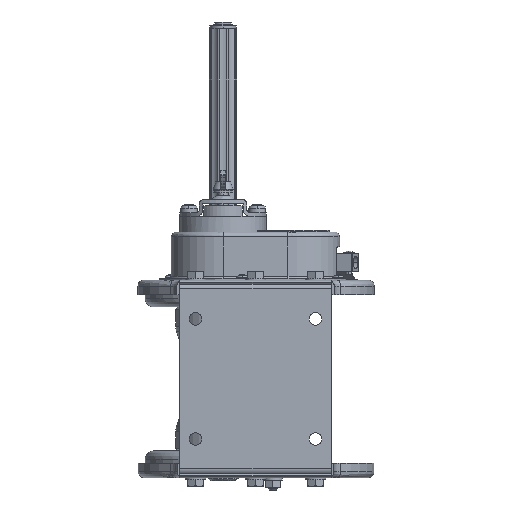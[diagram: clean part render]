
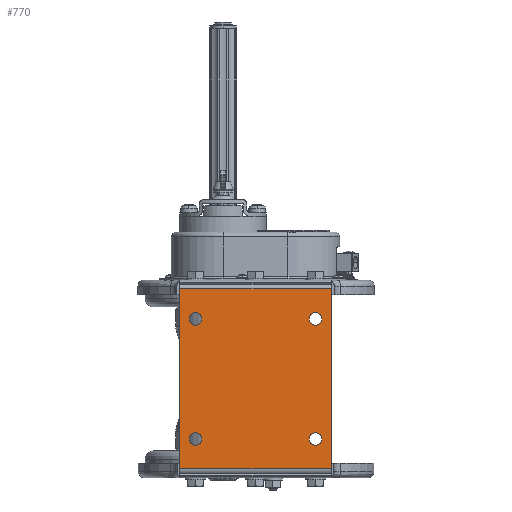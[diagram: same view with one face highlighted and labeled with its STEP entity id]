
A CAD part, front view. The second image highlights one B-rep face of the part: STEP entity #770.
In plain terms, the highlighted planar face has unit normal (0, -1, 0).
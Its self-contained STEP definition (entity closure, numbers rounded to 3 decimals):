
#770=ADVANCED_FACE('',(#8767,#8768,#8769,#8770,#8771),#8766,.F.);
#8766=PLANE('',#26576);
#8767=FACE_OUTER_BOUND('',#26577,.T.);
#8768=FACE_BOUND('',#26578,.T.);
#8769=FACE_BOUND('',#26579,.T.);
#8770=FACE_BOUND('',#26580,.T.);
#8771=FACE_BOUND('',#26581,.T.);
#26573=CARTESIAN_POINT('',(284.159,428.345,335.9));
#26574=DIRECTION('',(0.,1.,0.));
#26575=DIRECTION('',(0.,0.,1.));
#26576=AXIS2_PLACEMENT_3D('',#26573,#26574,#26575);
#26577=EDGE_LOOP('',(#39079,#39080,#39081,#39082));
#26578=EDGE_LOOP('',(#39083,#39084));
#26579=EDGE_LOOP('',(#39085,#39086));
#26580=EDGE_LOOP('',(#39087,#39088));
#26581=EDGE_LOOP('',(#39089,#39090));
#39079=ORIENTED_EDGE('',*,*,#48037,.F.);
#39080=ORIENTED_EDGE('',*,*,#48088,.F.);
#39081=ORIENTED_EDGE('',*,*,#46677,.T.);
#39082=ORIENTED_EDGE('',*,*,#47997,.T.);
#39083=ORIENTED_EDGE('',*,*,#48089,.T.);
#39084=ORIENTED_EDGE('',*,*,#48090,.T.);
#39085=ORIENTED_EDGE('',*,*,#48091,.T.);
#39086=ORIENTED_EDGE('',*,*,#48092,.T.);
#39087=ORIENTED_EDGE('',*,*,#48093,.T.);
#39088=ORIENTED_EDGE('',*,*,#48094,.T.);
#39089=ORIENTED_EDGE('',*,*,#48095,.T.);
#39090=ORIENTED_EDGE('',*,*,#48096,.T.);
#46677=EDGE_CURVE('',#56692,#56699,#56706,.T.);
#47997=EDGE_CURVE('',#56699,#65529,#65536,.T.);
#48037=EDGE_CURVE('',#65789,#65529,#65796,.T.);
#48088=EDGE_CURVE('',#56692,#65789,#66134,.T.);
#48089=EDGE_CURVE('',#66140,#66141,#66142,.T.);
#48090=EDGE_CURVE('',#66141,#66140,#66148,.T.);
#48091=EDGE_CURVE('',#66154,#66155,#66156,.T.);
#48092=EDGE_CURVE('',#66155,#66154,#66162,.T.);
#48093=EDGE_CURVE('',#66168,#66169,#66170,.T.);
#48094=EDGE_CURVE('',#66169,#66168,#66176,.T.);
#48095=EDGE_CURVE('',#66182,#66183,#66184,.T.);
#48096=EDGE_CURVE('',#66183,#66182,#66190,.T.);
#56692=VERTEX_POINT('',#88785);
#56699=VERTEX_POINT('',#88790);
#56706=LINE('',#88795,#88796);
#65529=VERTEX_POINT('',#94794);
#65536=LINE('',#94799,#94800);
#65789=VERTEX_POINT('',#94964);
#65796=LINE('',#94969,#94970);
#66134=LINE('',#95189,#95190);
#66140=VERTEX_POINT('',#95192);
#66141=VERTEX_POINT('',#95193);
#66142=CIRCLE('',#95197,5.25);
#66148=CIRCLE('',#95201,5.25);
#66154=VERTEX_POINT('',#95202);
#66155=VERTEX_POINT('',#95203);
#66156=CIRCLE('',#95207,5.25);
#66162=CIRCLE('',#95211,5.25);
#66168=VERTEX_POINT('',#95212);
#66169=VERTEX_POINT('',#95213);
#66170=CIRCLE('',#95217,5.25);
#66176=CIRCLE('',#95221,5.25);
#66182=VERTEX_POINT('',#95222);
#66183=VERTEX_POINT('',#95223);
#66184=CIRCLE('',#95227,5.25);
#66190=CIRCLE('',#95231,5.25);
#88785=CARTESIAN_POINT('',(420.159,428.345,495.9));
#88790=CARTESIAN_POINT('',(294.159,428.345,495.9));
#88795=CARTESIAN_POINT('',(420.159,428.345,495.9));
#88796=VECTOR('',#88797,126.);
#88797=DIRECTION('',(-1.,0.,0.));
#94794=CARTESIAN_POINT('',(294.159,428.345,345.9));
#94799=CARTESIAN_POINT('',(294.159,428.345,495.9));
#94800=VECTOR('',#94801,150.);
#94801=DIRECTION('',(0.,0.,-1.));
#94964=CARTESIAN_POINT('',(420.159,428.345,345.9));
#94969=CARTESIAN_POINT('',(420.159,428.345,345.9));
#94970=VECTOR('',#94971,126.);
#94971=DIRECTION('',(-1.,0.,0.));
#95189=CARTESIAN_POINT('',(420.159,428.345,495.9));
#95190=VECTOR('',#95191,150.);
#95191=DIRECTION('',(0.,0.,-1.));
#95192=CARTESIAN_POINT('',(307.159,428.345,376.15));
#95193=CARTESIAN_POINT('',(307.159,428.345,365.65));
#95194=CARTESIAN_POINT('',(307.159,428.345,370.9));
#95195=DIRECTION('',(0.,1.,0.));
#95196=DIRECTION('',(0.,0.,1.));
#95197=AXIS2_PLACEMENT_3D('',#95194,#95195,#95196);
#95198=CARTESIAN_POINT('',(307.159,428.345,370.9));
#95199=DIRECTION('',(0.,1.,0.));
#95200=DIRECTION('',(0.,0.,1.));
#95201=AXIS2_PLACEMENT_3D('',#95198,#95199,#95200);
#95202=CARTESIAN_POINT('',(407.159,428.345,376.15));
#95203=CARTESIAN_POINT('',(407.159,428.345,365.65));
#95204=CARTESIAN_POINT('',(407.159,428.345,370.9));
#95205=DIRECTION('',(0.,1.,0.));
#95206=DIRECTION('',(0.,0.,1.));
#95207=AXIS2_PLACEMENT_3D('',#95204,#95205,#95206);
#95208=CARTESIAN_POINT('',(407.159,428.345,370.9));
#95209=DIRECTION('',(0.,1.,0.));
#95210=DIRECTION('',(0.,0.,1.));
#95211=AXIS2_PLACEMENT_3D('',#95208,#95209,#95210);
#95212=CARTESIAN_POINT('',(407.159,428.345,476.15));
#95213=CARTESIAN_POINT('',(407.159,428.345,465.65));
#95214=CARTESIAN_POINT('',(407.159,428.345,470.9));
#95215=DIRECTION('',(0.,1.,0.));
#95216=DIRECTION('',(0.,0.,1.));
#95217=AXIS2_PLACEMENT_3D('',#95214,#95215,#95216);
#95218=CARTESIAN_POINT('',(407.159,428.345,470.9));
#95219=DIRECTION('',(0.,1.,0.));
#95220=DIRECTION('',(0.,0.,1.));
#95221=AXIS2_PLACEMENT_3D('',#95218,#95219,#95220);
#95222=CARTESIAN_POINT('',(307.159,428.345,476.15));
#95223=CARTESIAN_POINT('',(307.159,428.345,465.65));
#95224=CARTESIAN_POINT('',(307.159,428.345,470.9));
#95225=DIRECTION('',(0.,1.,0.));
#95226=DIRECTION('',(0.,0.,1.));
#95227=AXIS2_PLACEMENT_3D('',#95224,#95225,#95226);
#95228=CARTESIAN_POINT('',(307.159,428.345,470.9));
#95229=DIRECTION('',(0.,1.,0.));
#95230=DIRECTION('',(0.,0.,1.));
#95231=AXIS2_PLACEMENT_3D('',#95228,#95229,#95230);
